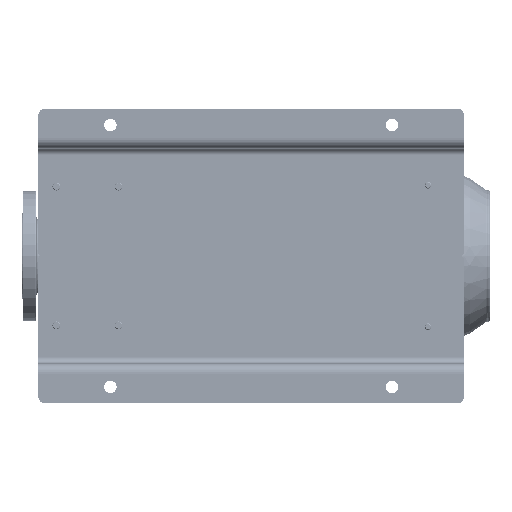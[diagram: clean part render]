
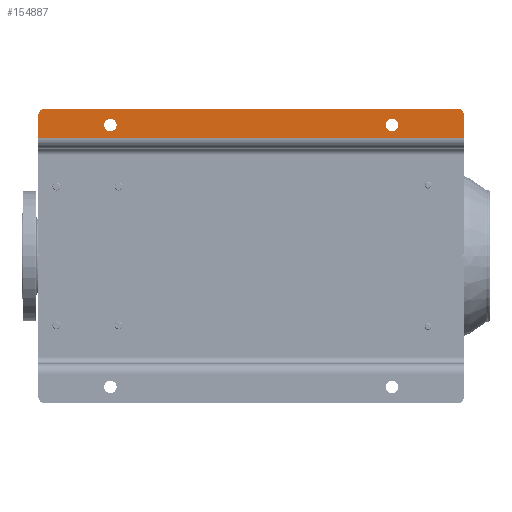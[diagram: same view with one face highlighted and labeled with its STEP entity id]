
A CAD part, front view. The second image highlights one B-rep face of the part: STEP entity #154887.
In plain terms, the highlighted planar face has unit normal (0, -1, 0).
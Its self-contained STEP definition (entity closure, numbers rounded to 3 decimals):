
#2019 = CARTESIAN_POINT ( 'NONE',  ( 450., 0., -10. ) ) ;
#3818 = AXIS2_PLACEMENT_3D ( 'NONE', #183391, #167001, #219478 ) ;
#5392 = ORIENTED_EDGE ( 'NONE', *, *, #104878, .T. ) ;
#7326 = FACE_OUTER_BOUND ( 'NONE', #34679, .T. ) ;
#10190 = CARTESIAN_POINT ( 'NONE',  ( 405., 0., -650. ) ) ;
#12211 = DIRECTION ( 'NONE',  ( 1., 0., 0. ) ) ;
#15209 = CARTESIAN_POINT ( 'NONE',  ( 440., 0., 0. ) ) ;
#15332 = EDGE_CURVE ( 'NONE', #185473, #186322, #217936, .T. ) ;
#17955 = AXIS2_PLACEMENT_3D ( 'NONE', #110498, #161860, #196927 ) ;
#21849 = AXIS2_PLACEMENT_3D ( 'NONE', #71825, #91586, #214027 ) ;
#24352 = CARTESIAN_POINT ( 'NONE',  ( 405., 0., 0. ) ) ;
#24828 = FACE_BOUND ( 'NONE', #193640, .T. ) ;
#32739 = DIRECTION ( 'NONE',  ( 0., 1., 0. ) ) ;
#34147 = CARTESIAN_POINT ( 'NONE',  ( 450., 0., -650. ) ) ;
#34679 = EDGE_LOOP ( 'NONE', ( #77103, #74786, #188186, #5392, #227239, #166419 ) ) ;
#37141 = DIRECTION ( 'NONE',  ( 0., 0., -1. ) ) ;
#37692 = AXIS2_PLACEMENT_3D ( 'NONE', #70033, #32739, #172604 ) ;
#39913 = LINE ( 'NONE', #182188, #226022 ) ;
#44682 = EDGE_CURVE ( 'NONE', #107433, #154241, #86124, .T. ) ;
#47712 = CIRCLE ( 'NONE', #17955, 9.5 ) ;
#47729 = CARTESIAN_POINT ( 'NONE',  ( 434.5, 0., -540. ) ) ;
#47847 = CARTESIAN_POINT ( 'NONE',  ( 425., 0., -540. ) ) ;
#49000 = DIRECTION ( 'NONE',  ( 0., 1., 0. ) ) ;
#50590 = CARTESIAN_POINT ( 'NONE',  ( 415.5, 0., -110. ) ) ;
#57584 = VERTEX_POINT ( 'NONE', #156492 ) ;
#62913 = CARTESIAN_POINT ( 'NONE',  ( 415.5, 0., -540. ) ) ;
#65558 = CIRCLE ( 'NONE', #87790, 10. ) ;
#67778 = EDGE_CURVE ( 'NONE', #154241, #125462, #39913, .T. ) ;
#70033 = CARTESIAN_POINT ( 'NONE',  ( 425., 0., -110. ) ) ;
#71516 = EDGE_CURVE ( 'NONE', #203489, #169414, #82446, .T. ) ;
#71825 = CARTESIAN_POINT ( 'NONE',  ( 425., 0., -540. ) ) ;
#72675 = AXIS2_PLACEMENT_3D ( 'NONE', #47847, #49000, #171364 ) ;
#74786 = ORIENTED_EDGE ( 'NONE', *, *, #44682, .T. ) ;
#75553 = CARTESIAN_POINT ( 'NONE',  ( 434.5, 0., -110. ) ) ;
#76096 = FACE_BOUND ( 'NONE', #217526, .T. ) ;
#77103 = ORIENTED_EDGE ( 'NONE', *, *, #93144, .F. ) ;
#82446 = CIRCLE ( 'NONE', #37692, 9.5 ) ;
#85815 = ORIENTED_EDGE ( 'NONE', *, *, #93782, .T. ) ;
#86124 = LINE ( 'NONE', #196952, #199070 ) ;
#87263 = ORIENTED_EDGE ( 'NONE', *, *, #71516, .T. ) ;
#87790 = AXIS2_PLACEMENT_3D ( 'NONE', #97748, #152555, #154872 ) ;
#91586 = DIRECTION ( 'NONE',  ( 0., 1., 0. ) ) ;
#93144 = EDGE_CURVE ( 'NONE', #107433, #98762, #173056, .T. ) ;
#93782 = EDGE_CURVE ( 'NONE', #169414, #203489, #47712, .T. ) ;
#97748 = CARTESIAN_POINT ( 'NONE',  ( 440., 0., -640. ) ) ;
#98762 = VERTEX_POINT ( 'NONE', #15209 ) ;
#104878 = EDGE_CURVE ( 'NONE', #125462, #57584, #65558, .T. ) ;
#105874 = CIRCLE ( 'NONE', #169135, 10. ) ;
#107433 = VERTEX_POINT ( 'NONE', #24352 ) ;
#109212 = ORIENTED_EDGE ( 'NONE', *, *, #15332, .T. ) ;
#110498 = CARTESIAN_POINT ( 'NONE',  ( 425., 0., -110. ) ) ;
#114435 = ORIENTED_EDGE ( 'NONE', *, *, #204181, .T. ) ;
#115899 = VERTEX_POINT ( 'NONE', #2019 ) ;
#125462 = VERTEX_POINT ( 'NONE', #201247 ) ;
#144768 = CIRCLE ( 'NONE', #21849, 9.5 ) ;
#146425 = CARTESIAN_POINT ( 'NONE',  ( 440., 0., -10. ) ) ;
#147152 = PLANE ( 'NONE',  #3818 ) ;
#147596 = DIRECTION ( 'NONE',  ( 0., 0., -1. ) ) ;
#152555 = DIRECTION ( 'NONE',  ( 0., -1., 0. ) ) ;
#154241 = VERTEX_POINT ( 'NONE', #10190 ) ;
#154872 = DIRECTION ( 'NONE',  ( 0., 0., -1. ) ) ;
#154887 = ADVANCED_FACE ( 'NONE', ( #76096, #24828, #7326 ), #147152, .T. ) ;
#156492 = CARTESIAN_POINT ( 'NONE',  ( 450., 0., -640. ) ) ;
#161860 = DIRECTION ( 'NONE',  ( 0., 1., 0. ) ) ;
#166419 = ORIENTED_EDGE ( 'NONE', *, *, #175333, .T. ) ;
#167001 = DIRECTION ( 'NONE',  ( 0., -1., 0. ) ) ;
#169135 = AXIS2_PLACEMENT_3D ( 'NONE', #146425, #183825, #147596 ) ;
#169414 = VERTEX_POINT ( 'NONE', #75553 ) ;
#171364 = DIRECTION ( 'NONE',  ( 0., 0., -1. ) ) ;
#171880 = CARTESIAN_POINT ( 'NONE',  ( 389., 0., 0. ) ) ;
#172604 = DIRECTION ( 'NONE',  ( 0., 0., -1. ) ) ;
#173056 = LINE ( 'NONE', #171880, #188835 ) ;
#175333 = EDGE_CURVE ( 'NONE', #115899, #98762, #105874, .T. ) ;
#176544 = EDGE_CURVE ( 'NONE', #57584, #115899, #228851, .T. ) ;
#182188 = CARTESIAN_POINT ( 'NONE',  ( 389., 0., -650. ) ) ;
#183391 = CARTESIAN_POINT ( 'NONE',  ( 389., 0., -650. ) ) ;
#183825 = DIRECTION ( 'NONE',  ( 0., -1., 0. ) ) ;
#184536 = VECTOR ( 'NONE', #229989, 1000. ) ;
#185473 = VERTEX_POINT ( 'NONE', #62913 ) ;
#186322 = VERTEX_POINT ( 'NONE', #47729 ) ;
#188186 = ORIENTED_EDGE ( 'NONE', *, *, #67778, .T. ) ;
#188835 = VECTOR ( 'NONE', #12211, 1000. ) ;
#193640 = EDGE_LOOP ( 'NONE', ( #109212, #114435 ) ) ;
#196927 = DIRECTION ( 'NONE',  ( 0., 0., -1. ) ) ;
#196952 = CARTESIAN_POINT ( 'NONE',  ( 405., 0., -650. ) ) ;
#199070 = VECTOR ( 'NONE', #37141, 1000. ) ;
#201247 = CARTESIAN_POINT ( 'NONE',  ( 440., 0., -650. ) ) ;
#203489 = VERTEX_POINT ( 'NONE', #50590 ) ;
#204181 = EDGE_CURVE ( 'NONE', #186322, #185473, #144768, .T. ) ;
#214027 = DIRECTION ( 'NONE',  ( 0., 0., -1. ) ) ;
#217526 = EDGE_LOOP ( 'NONE', ( #87263, #85815 ) ) ;
#217936 = CIRCLE ( 'NONE', #72675, 9.5 ) ;
#219478 = DIRECTION ( 'NONE',  ( 0., 0., -1. ) ) ;
#221701 = DIRECTION ( 'NONE',  ( 1., 0., 0. ) ) ;
#226022 = VECTOR ( 'NONE', #221701, 1000. ) ;
#227239 = ORIENTED_EDGE ( 'NONE', *, *, #176544, .T. ) ;
#228851 = LINE ( 'NONE', #34147, #184536 ) ;
#229989 = DIRECTION ( 'NONE',  ( 0., 0., 1. ) ) ;
